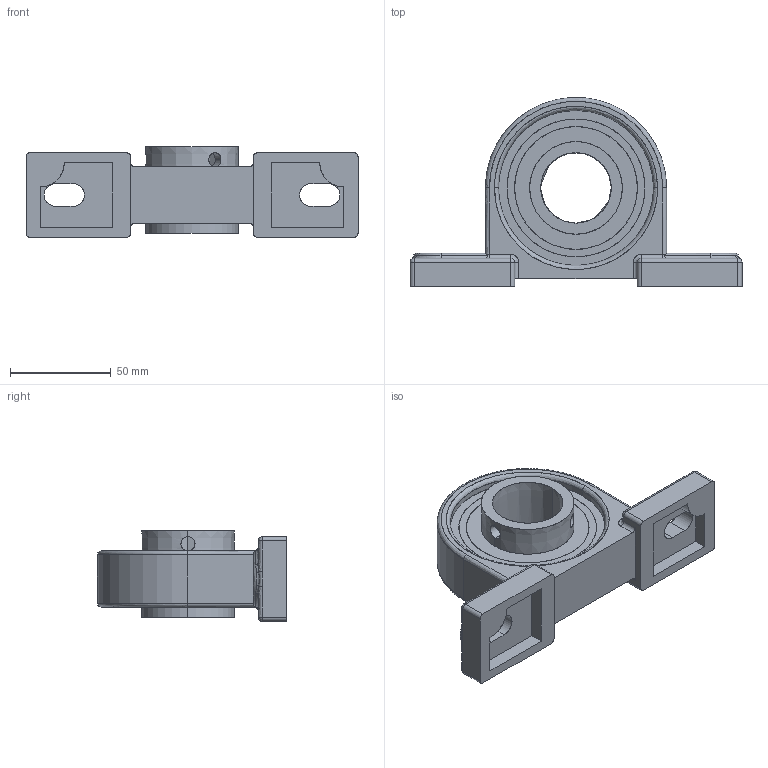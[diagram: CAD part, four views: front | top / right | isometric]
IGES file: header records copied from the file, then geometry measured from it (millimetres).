
Start section: SolidWorks IGES file using analytic representation for surfaces
Global section: file name: C:\Users\PC2\Desktop\bearing housing P207.IGS; native system: SolidWorks 2013; preprocessor: SolidWorks 2013; author: PC2; date: 130412.175431; units: millimetre
Bounding box: 165 x 94 x 45 mm (x, y, z)
Surface area: 58505.5 mm2 (no closed solid volume)
Topology: 0 solids, 0 shells, 148 faces, 2553 edges, 2545 vertices
Faces by surface type: revolution 77, bspline 71
